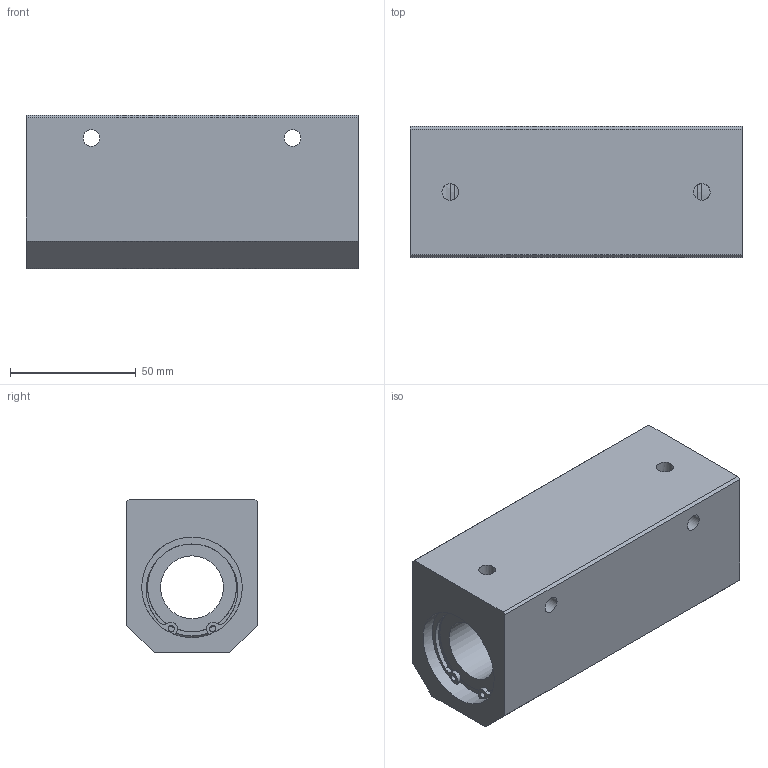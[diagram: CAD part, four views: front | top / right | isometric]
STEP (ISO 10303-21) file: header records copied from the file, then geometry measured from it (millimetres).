
FILE_DESCRIPTION((''),'2;1');
FILE_NAME('D:\製品 (図面)\カタログ用3D\リニアベアリング関連(改)\STEP形式\CHW\CHW25.stp','2010-01-25T09:41:10',('Tsuchiya'),(''),'Autodesk Inventor 10','Autodesk Inventor 10','');
FILE_SCHEMA(('AUTOMOTIVE_DESIGN { 1 0 10303 214 1 1 1 1 }'));
Length unit declared in the file: millimetre
Products named in the file (1): CHW25
Bounding box: 132 x 52 x 61 mm (x, y, z)
Volume: 320354.7 mm3; surface area: 52565.5 mm2
Topology: 1 solids, 4 shells, 92 faces, 239 edges, 145 vertices
Faces by surface type: bspline 41, plane 28, cylinder 21, torus 2
Full cylindrical faces by diameter (mm): 2.5 x2, 25 x1, 35.3 x2, 38 x2, 40 x5
Entity records: 3082 total; most frequent: CARTESIAN_POINT 1030, DIRECTION 422, ORIENTED_EDGE 386, EDGE_CURVE 193, AXIS2_PLACEMENT_3D 185, EDGE_LOOP 148, CIRCLE 133, VERTEX_POINT 129
